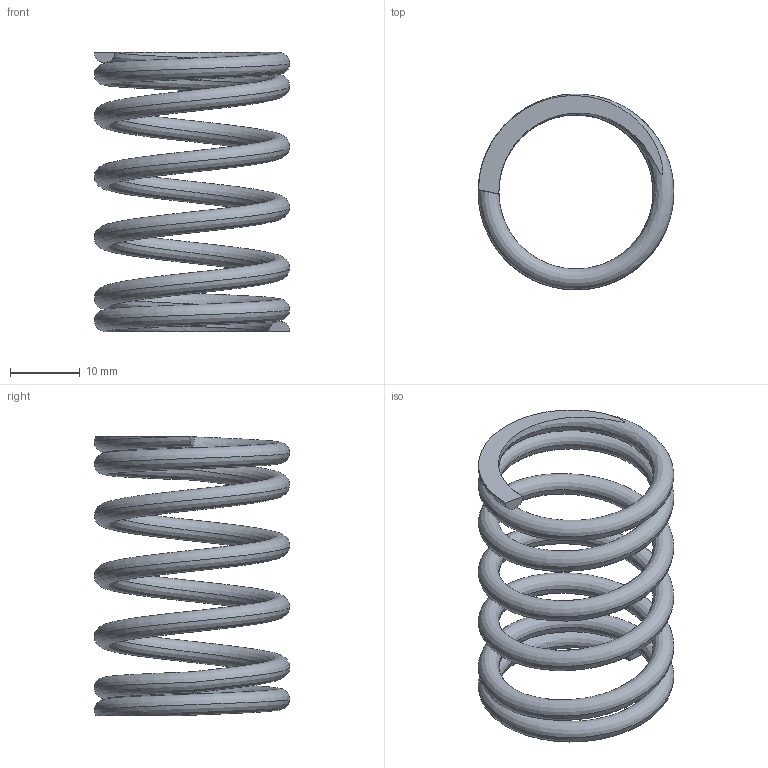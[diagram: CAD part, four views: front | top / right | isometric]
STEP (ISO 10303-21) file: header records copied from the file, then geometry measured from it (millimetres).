
FILE_DESCRIPTION(('modularis output'),'2;1');
FILE_NAME('D-288Z-31.stp','21:04:06 2003/05/27',( 'modularis software ag'),('modularis software ag'), 'unknown preprocess','ACIS','unknown authorization');
FILE_SCHEMA(('CONFIG_CONTROL_DESIGN {UNKNOWN IMPLEMENTATION LEVEL}'));
Length unit declared in the file: millimetre
Products named in the file (1): PRODUCT_ID_30
Bounding box: 27.98 x 27.97 x 40 mm (x, y, z)
Volume: 3494.1 mm3; surface area: 4764.9 mm2
Topology: 1 solids, 1 shells, 6 faces, 12 edges, 8 vertices
Faces by surface type: plane 4, bspline 2
Entity records: 7329 total; most frequent: CARTESIAN_POINT 7128, ORIENTED_EDGE 24, DIRECTION 18, EDGE_CURVE 12, VERTEX_POINT 8, AXIS2_PLACEMENT_3D 8, PERSON 8, ORGANIZATION 8
